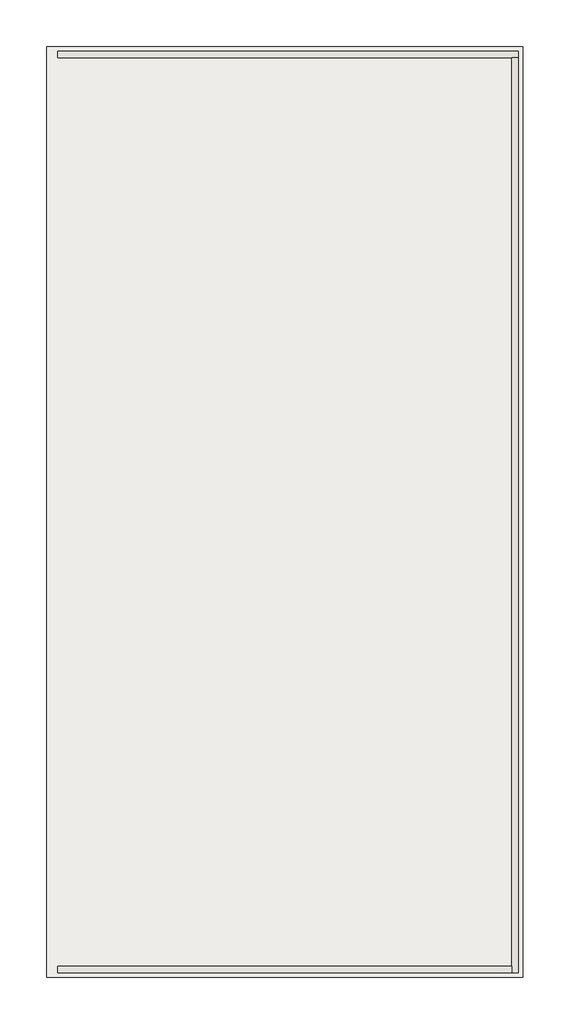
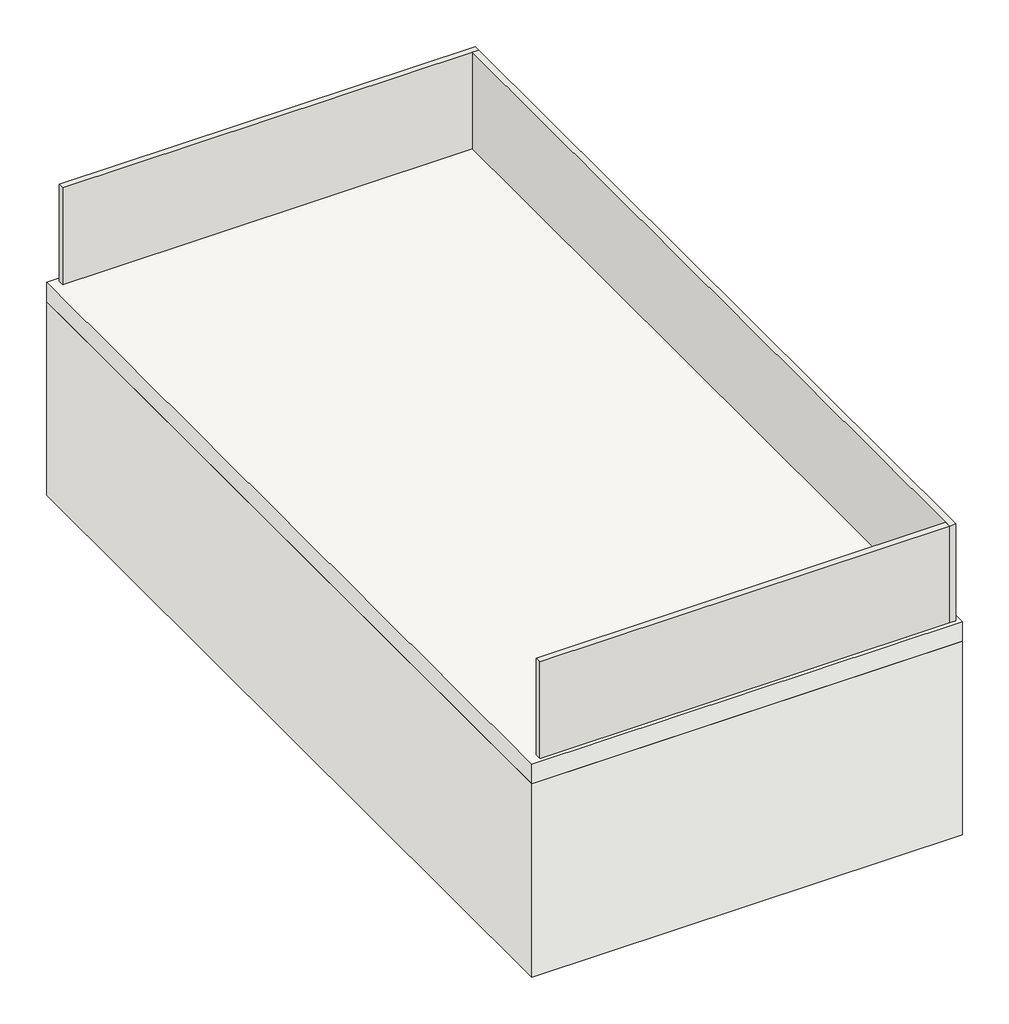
# One storey: 3 walls, 2 slabs.
"""IFC4 building model written with IfcOpenShell, lengths in millimetres."""

from ifc_helpers import new_model, si_unit, frame, origin, place, context, project, spatial, polyline, outline, extrude, faceted_brep, element, save

model = new_model("IFC4")

# Units and contexts
model_context = context("Model", 3, world=origin())
ifc_project = project(units=[si_unit("LENGTHUNIT", "METRE", prefix="MILLI")], contexts=[model_context])

# Site, building, storey
site = spatial("IfcSite", under=ifc_project)
building = spatial("IfcBuilding", under=site)
storey = spatial("IfcBuildingStorey", under=building, Name="- 2 - Sotto platea", Elevation=-3000.0)

# Slabs
placement = place(None, origin())
element("IfcSlab", 1, ObjectType="Magrone - 10 cm", at=placement, inside=storey, context=model_context, shape_type="SweptSolid", body=[
    extrude(outline(polyline([(1797.3707384, -11577.6077951), (1797.3707384, -15680.7761472), (-302.6292616, -15680.7761472), (-302.6292616, -11577.6077951), (1797.3707384, -11577.6077951)])), frame((0.0, 0.0, -3100.0), z_axis=(0.0, 0.0, 1.0), x_axis=(1.0, 0.0, 0.0)), (0.0, 0.0, 1.0), 100.0),
])
element("IfcSlab", 2, ObjectType="Terreno", at=placement, inside=storey, context=model_context, shape_type="SweptSolid", body=[
    extrude(outline(polyline([(-302.6292616, -11577.6077951), (1797.3707384, -11577.6077951), (1797.3707384, -15680.7761472), (-302.6292616, -15680.7761472), (-302.6292616, -11577.6077951)])), frame((0.0, 0.0, -4100.0), z_axis=(0.0, 0.0, 1.0), x_axis=(1.0, 0.0, 0.0)), (0.0, 0.0, 1.0), 1000.0),
])

# Walls
element("IfcWall", 3, ObjectType="Cassero", at=placement, inside=storey, context=model_context, shape_type="Brep", body=[
    faceted_brep([(-252.6292616, -11627.6077951, -3000.0), (1747.3707384, -11627.6077951, -3000.0), (1777.3707384, -11627.6077951, -3000.0), (1777.3707384, -11627.6077951, -2500.0), (1747.3707384, -11627.6077951, -2500.0), (-252.6292616, -11627.6077951, -2500.0), (-252.6292616, -11597.6077951, -3000.0), (-252.6292616, -11597.6077951, -2500.0), (1777.3707384, -11597.6077951, -2500.0), (1777.3707384, -11597.6077951, -3000.0)], [[[0, 1, 2, 3, 4, 5]], [[6, 7, 8, 9]], [[2, 1, 0, 6, 9]], [[5, 4, 3, 8, 7]], [[0, 5, 7, 6]], [[3, 2, 9, 8]]]),
])
element("IfcWall", 4, ObjectType="Cassero", at=placement, inside=storey, context=model_context, shape_type="Brep", body=[
    faceted_brep([(1747.3707384, -11627.6077951, -3000.0), (1747.3707384, -15630.7761472, -3000.0), (1747.3707384, -15660.7761472, -3000.0), (1747.3707384, -15660.7761472, -2500.0), (1747.3707384, -15630.7761472, -2500.0), (1747.3707384, -11627.6077951, -2500.0), (1777.3707384, -11627.6077951, -3000.0), (1777.3707384, -11627.6077951, -2500.0), (1777.3707384, -15660.7761472, -2500.0), (1777.3707384, -15660.7761472, -3000.0)], [[[0, 1, 2, 3, 4, 5]], [[6, 7, 8, 9]], [[2, 1, 0, 6, 9]], [[5, 4, 3, 8, 7]], [[0, 5, 7, 6]], [[3, 2, 9, 8]]]),
])
element("IfcWall", 5, ObjectType="Cassero", at=placement, inside=storey, context=model_context, shape_type="SweptSolid", body=[
    extrude(outline(polyline([(-252.6292616, -15630.7761472), (1747.3707384, -15630.7761472), (1747.3707384, -15660.7761472), (-252.6292616, -15660.7761472), (-252.6292616, -15630.7761472)])), frame((0.0, 0.0, -3000.0), z_axis=(0.0, 0.0, 1.0), x_axis=(1.0, 0.0, 0.0)), (0.0, 0.0, 1.0), 500.0),
])

save(model, "model.ifc")
